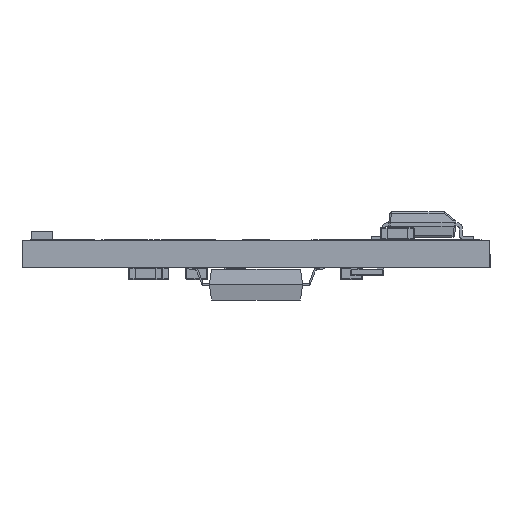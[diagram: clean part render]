
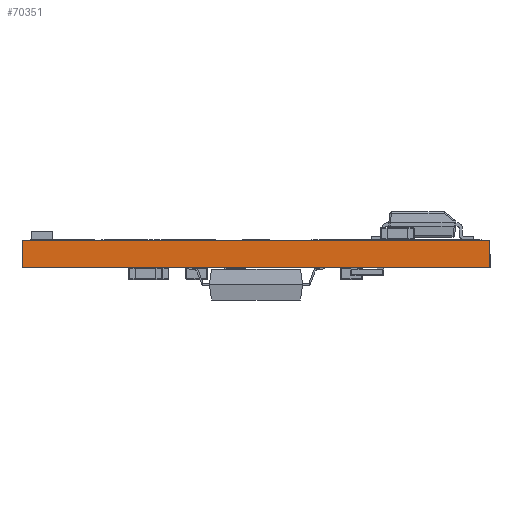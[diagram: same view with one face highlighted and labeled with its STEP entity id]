
A CAD part, front view. The second image highlights one B-rep face of the part: STEP entity #70351.
In plain terms, the highlighted planar face has unit normal (0, -1, 0).
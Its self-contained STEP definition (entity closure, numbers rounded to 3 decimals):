
#477 = FACE_OUTER_BOUND ( 'NONE', #93886, .T. ) ;
#6371 = VECTOR ( 'NONE', #34960, 1000. ) ;
#7113 = CARTESIAN_POINT ( 'NONE',  ( -14., -14., -0.03 ) ) ;
#9006 = CARTESIAN_POINT ( 'NONE',  ( -14., -14., -1.66 ) ) ;
#12557 = VERTEX_POINT ( 'NONE', #119421 ) ;
#17639 = ORIENTED_EDGE ( 'NONE', *, *, #107919, .T. ) ;
#17685 = LINE ( 'NONE', #106281, #6371 ) ;
#19379 = EDGE_CURVE ( 'NONE', #142238, #121259, #93411, .T. ) ;
#27208 = EDGE_CURVE ( 'NONE', #142238, #100375, #33547, .T. ) ;
#27336 = CARTESIAN_POINT ( 'NONE',  ( -14., -14., -1.66 ) ) ;
#30612 = EDGE_CURVE ( 'NONE', #12557, #100375, #145697, .T. ) ;
#33192 = CARTESIAN_POINT ( 'NONE',  ( -14., -14., -0.03 ) ) ;
#33547 = LINE ( 'NONE', #141083, #113604 ) ;
#34960 = DIRECTION ( 'NONE',  ( 0., 0., 1. ) ) ;
#44006 = CARTESIAN_POINT ( 'NONE',  ( 14., -14., -1.66 ) ) ;
#44599 = AXIS2_PLACEMENT_3D ( 'NONE', #146913, #135435, #52170 ) ;
#46971 = VECTOR ( 'NONE', #125945, 1000. ) ;
#51366 = DIRECTION ( 'NONE',  ( 1., 0., 0. ) ) ;
#52170 = DIRECTION ( 'NONE',  ( 1., 0., 0. ) ) ;
#58072 = ORIENTED_EDGE ( 'NONE', *, *, #19379, .T. ) ;
#69856 = ORIENTED_EDGE ( 'NONE', *, *, #27208, .F. ) ;
#70351 = ADVANCED_FACE ( 'NONE', ( #477 ), #97415, .F. ) ;
#93411 = LINE ( 'NONE', #27336, #149330 ) ;
#93886 = EDGE_LOOP ( 'NONE', ( #17639, #104461, #69856, #58072 ) ) ;
#97415 = PLANE ( 'NONE',  #44599 ) ;
#100375 = VERTEX_POINT ( 'NONE', #33192 ) ;
#104461 = ORIENTED_EDGE ( 'NONE', *, *, #30612, .T. ) ;
#106281 = CARTESIAN_POINT ( 'NONE',  ( 14., -14., -1.69 ) ) ;
#107919 = EDGE_CURVE ( 'NONE', #121259, #12557, #17685, .T. ) ;
#113604 = VECTOR ( 'NONE', #129572, 1000. ) ;
#119421 = CARTESIAN_POINT ( 'NONE',  ( 14., -14., -0.03 ) ) ;
#121259 = VERTEX_POINT ( 'NONE', #44006 ) ;
#125945 = DIRECTION ( 'NONE',  ( -1., 0., 0. ) ) ;
#129572 = DIRECTION ( 'NONE',  ( 0., 0., 1. ) ) ;
#135435 = DIRECTION ( 'NONE',  ( 0., 1., 0. ) ) ;
#141083 = CARTESIAN_POINT ( 'NONE',  ( -14., -14., -1.69 ) ) ;
#142238 = VERTEX_POINT ( 'NONE', #9006 ) ;
#145697 = LINE ( 'NONE', #7113, #46971 ) ;
#146913 = CARTESIAN_POINT ( 'NONE',  ( -14., -14., -1.69 ) ) ;
#149330 = VECTOR ( 'NONE', #51366, 1000. ) ;
